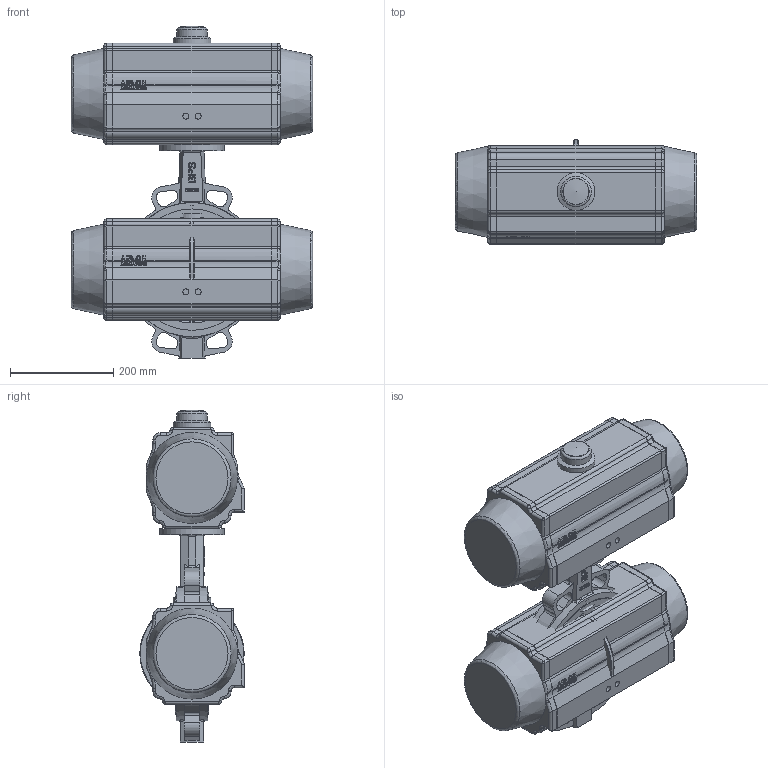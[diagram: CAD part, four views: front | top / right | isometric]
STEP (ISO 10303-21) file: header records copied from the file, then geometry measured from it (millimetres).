
FILE_DESCRIPTION( ( 'Unknown' ), '1' );
FILE_NAME( 'R:/ECCUA/ROOTSI BPS 3D vidinad/Poordklapid Wafer type/Butterfly valve(wafer) with pneumatic actuator BPS/STEP formaat/BPS 2303200PE butterfly valve DN200.stp', 'Unknown', ( 'Unknown' ), ( 'Unknown' ), 'PSStep 10.1', 'Unknown', ' ' );
FILE_SCHEMA( ( 'AUTOMOTIVE_DESIGN { 1 0 10303 214 1 1 1 1 }' ) );
Length unit declared in the file: millimetre
Products named in the file (5): Assem1; Butterfly valve wafer type DN200 BPS; BPS 8300160DA-SR pneumatic actuator
Bounding box: 467 x 202 x 642.5 mm (x, y, z)
Volume: 31707322.2 mm3; surface area: 1547409 mm2
Topology: 8 solids, 8 shells, 1150 faces, 2970 edges, 1906 vertices
Faces by surface type: plane 426, cylinder 372, bspline 180, extrusion 82, torus 62, cone 26, sphere 2
Full cylindrical faces by diameter (mm): 8.376 x8, 10.106 x8, 11 x8, 11.445 x4, 50 x2, 59 x2, 73 x2, 125 x2, 200 x2, 235 x4, 260 x4
Entity records: 32101 total; most frequent: CARTESIAN_POINT 14612, ORIENTED_EDGE 2818, DIRECTION 2288, EDGE_CURVE 1409, VERTEX_POINT 935, AXIS2_PLACEMENT_3D 865, EDGE_LOOP 680, FACE_OUTER_BOUND 608
